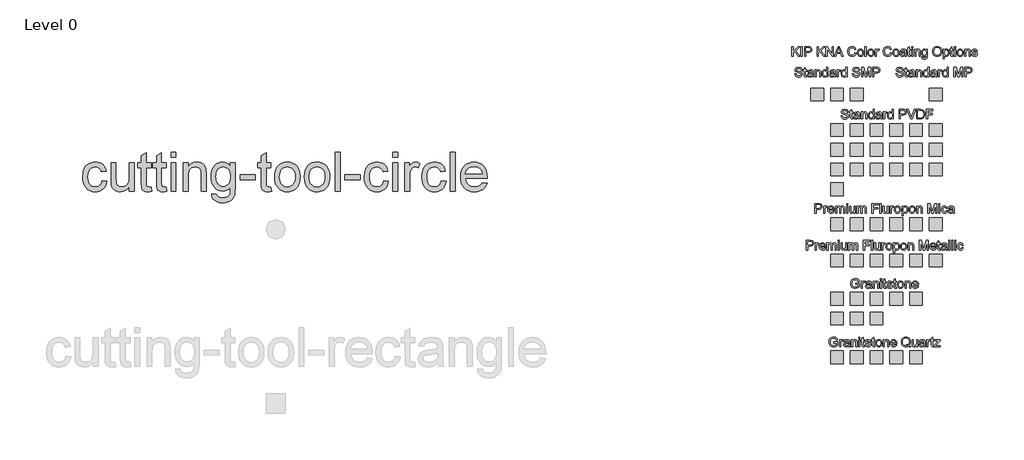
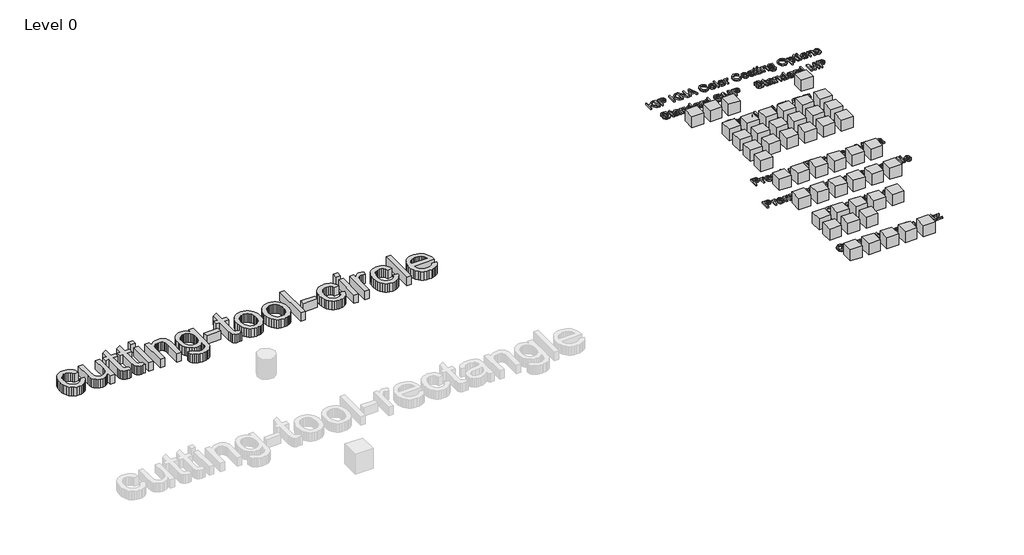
# One storey, part 5 of 5: 50 proxies.
"""IFC4 building model written with IfcOpenShell, lengths in millimetres."""

from ifc_helpers import new_model, si_unit, origin, origin_with_axes, place, context, project, spatial, polyline, outline, extrude, transform, mapped, element, save
from components import ks_color_sample_ks_color_sample_0243efec, r19_kna_color_range_kingspan_quadcore_4278cd54, r19_kna_color_range_kingspan_quadcore_c5814d20, r19_kna_color_range_kingspan_quadcore_91b79b7c

model = new_model("IFC4")

# Units and contexts
model_context = context("Model", 3, world=origin())
ifc_project = project(units=[si_unit("LENGTHUNIT", "METRE", prefix="MILLI")], contexts=[model_context])

# Site, building, storey
site = spatial("IfcSite", under=ifc_project)
building = spatial("IfcBuilding", under=site)
storey = spatial("IfcBuildingStorey", under=building, Name="Level 0", Elevation=0.0)

# Proxies
placement = place(None, origin())
element("IfcBuildingElementProxy", 1, Name="24\" Arial", ObjectType="24\" Arial", at=placement, inside=storey, context=model_context, shape_type="SweptSolid", body=[
    extrude(outline(polyline([(925.5357478, 12281.6242291), (1001.6775213, 12272.1065074), (993.3959881, 12236.1780375), (980.4485405, 12204.3856869), (962.8351786, 12176.7294556), (940.5559023, 12153.2093435), (914.5494714, 12134.4387977), (885.7546454, 12121.0312649), (854.1714244, 12112.9867453), (819.7998084, 12110.3052387), (777.0955386, 12114.0463354), (738.8062275, 12125.2696254), (704.9318753, 12143.9751087), (675.4724818, 12170.1627853), (651.627057, 12203.3400388), (634.5946108, 12243.0142527), (624.375143, 12289.185427), (620.9686537, 12341.8535617), (626.7871047, 12409.6115608), (634.0601684, 12440.1026604), (644.2424575, 12468.3351601), (657.4036821, 12493.7420861), (673.6135518, 12515.7564648), (692.8720668, 12534.3782963), (715.179227, 12549.6075804), (739.5265629, 12561.4489647), (764.905605, 12569.9070962), (791.3163532, 12574.9819752), (818.7588076, 12576.6736015), (852.5402133, 12574.349939), (883.0963755, 12567.3789514), (910.4272941, 12555.7606388), (934.5329691, 12539.4950012), (955.0044359, 12518.9538245), (971.4327299, 12494.5088947), (983.8178512, 12466.160212), (992.1597996, 12433.9077762), (916.0180261, 12424.3900545), (902.2061761, 12457.6091339), (880.6983558, 12481.4220274), (852.6842804, 12495.7543778), (819.3536652, 12500.531828), (793.4820067, 12498.1802815), (770.1477876, 12491.1256421), (749.3510081, 12479.3679097), (731.091668, 12462.9070844), (716.2248751, 12441.3620855), (705.6057374, 12414.3518324), (699.2342548, 12381.876325), (697.1104272, 12343.9355633), (699.1877815, 12305.4231807), (705.4198444, 12272.5712399), (715.8066159, 12245.3797411), (730.348096, 12223.8486842), (748.2449447, 12207.4854527), (768.6978222, 12195.7974302), (791.7067285, 12188.7846167), (817.2716636, 12186.4470122), (856.6995692, 12192.2840525), (873.7506048, 12199.5803528), (889.0263622, 12209.7951732), (902.0992876, 12223.0400496), (912.541827, 12239.4265177), (920.3539804, 12258.9545776), (925.5357478, 12281.6242291)])), origin_with_axes(), (0.0, 0.0, 1.0), 152.4),
    extrude(outline(polyline([(1353.8332238, 12119.8229604), (1353.8332238, 12196.7083059), (1326.283881, 12158.906964), (1294.1987489, 12131.9060055), (1257.5778275, 12115.7054304), (1216.4211169, 12110.3052387), (1179.3354631, 12114.0974559), (1144.8151327, 12125.4741077), (1115.853003, 12142.5762638), (1095.4419514, 12163.5449944), (1081.7044586, 12189.0123357), (1072.7630052, 12219.6103237), (1068.3015731, 12290.3983788), (1068.3015731, 12567.1558798), (1144.4433467, 12567.1558798), (1144.4433467, 12326.2385495), (1145.5958833, 12278.0550835), (1149.0534931, 12248.609632), (1160.1513053, 12222.7147369), (1179.1681594, 12203.028668), (1204.8399829, 12190.5924262), (1235.9027035, 12186.4470122), (1268.7499969, 12190.6853727), (1299.4781101, 12203.400454), (1324.8153263, 12223.4211303), (1341.4899285, 12249.5762756), (1350.7474, 12285.3978571), (1353.8332238, 12334.4178416), (1353.8332238, 12567.1558798), (1429.9749973, 12567.1558798), (1429.9749973, 12119.8229604), (1353.8332238, 12119.8229604)])), origin_with_axes(), (0.0, 0.0, 1.0), 152.4),
    extrude(outline(polyline([(1696.4712047, 12183.3240098), (1705.9889263, 12117.5922444), (1675.8370815, 12112.1269901), (1649.0313106, 12110.3052387), (1612.4847465, 12113.4654197), (1585.2328324, 12122.9459628), (1565.9743174, 12137.5571528), (1553.4079505, 12156.1092743), (1546.4927308, 12187.9713348), (1544.1876576, 12242.5123416), (1544.1876576, 12491.0141063), (1487.0813275, 12491.0141063), (1487.0813275, 12567.1558798), (1544.1876576, 12567.1558798), (1544.1876576, 12675.8661072), (1620.3294311, 12720.6291421), (1620.3294311, 12567.1558798), (1696.4712047, 12567.1558798), (1696.4712047, 12491.0141063), (1620.3294311, 12491.0141063), (1620.3294311, 12244.7430576), (1624.34472, 12205.4824556), (1637.3572301, 12191.5776591), (1648.3435065, 12187.7296739), (1663.3078931, 12186.4470122), (1696.4712047, 12183.3240098)])), origin_with_axes(), (0.0, 0.0, 1.0), 152.4),
    extrude(outline(polyline([(1934.4142469, 12183.3240098), (1943.9319686, 12117.5922444), (1913.7801237, 12112.1269901), (1886.9743528, 12110.3052387), (1850.4277887, 12113.4654197), (1823.1758746, 12122.9459628), (1803.9173597, 12137.5571528), (1791.3509927, 12156.1092743), (1784.4357731, 12187.9713348), (1782.1306999, 12242.5123416), (1782.1306999, 12491.0141063), (1725.0243697, 12491.0141063), (1725.0243697, 12567.1558798), (1782.1306999, 12567.1558798), (1782.1306999, 12675.8661072), (1858.2724734, 12720.6291421), (1858.2724734, 12567.1558798), (1934.4142469, 12567.1558798), (1934.4142469, 12491.0141063), (1858.2724734, 12491.0141063), (1858.2724734, 12244.7430576), (1862.2877622, 12205.4824556), (1875.3002723, 12191.5776591), (1886.2865487, 12187.7296739), (1901.2509354, 12186.4470122), (1934.4142469, 12183.3240098)])), origin_with_axes(), (0.0, 0.0, 1.0), 152.4),
    extrude(outline(polyline([(2010.5560204, 12652.815375), (2010.5560204, 12728.9571485), (2086.6977939, 12728.9571485), (2086.6977939, 12652.815375), (2010.5560204, 12652.815375)])), origin_with_axes(), (0.0, 0.0, 1.0), 152.4),
    extrude(outline(polyline([(2010.5560204, 12119.8229604), (2010.5560204, 12567.1558798), (2086.6977939, 12567.1558798), (2086.6977939, 12119.8229604), (2010.5560204, 12119.8229604)])), origin_with_axes(), (0.0, 0.0, 1.0), 152.4),
    extrude(outline(polyline([(2200.9104542, 12119.8229604), (2200.9104542, 12567.1558798), (2277.0522277, 12567.1558798), (2277.0522277, 12504.6958312), (2303.5048019, 12536.1861057), (2335.2739159, 12558.6791589), (2372.3595697, 12572.1749909), (2414.7617634, 12576.6736015), (2452.2935605, 12573.048688), (2486.6651765, 12562.1739474), (2515.3298774, 12545.4063986), (2535.740929, 12524.1030606), (2549.5899576, 12498.3197013), (2558.5685896, 12468.1120885), (2562.5838784, 12394.4984598), (2562.5838784, 12119.8229604), (2486.4421049, 12119.8229604), (2486.4421049, 12384.2371661), (2484.2485675, 12423.6093039), (2477.6679552, 12451.6047899), (2465.5291422, 12471.6626448), (2446.6610025, 12487.2218891), (2422.476323, 12497.2043433), (2394.3878904, 12500.531828), (2371.2674483, 12498.6636033), (2349.7921593, 12493.0589293), (2329.9620233, 12483.717806), (2311.7770404, 12470.6402333), (2296.5849349, 12452.3390673), (2285.7334309, 12427.3271639), (2279.2225285, 12395.6045231), (2277.0522277, 12357.171145), (2277.0522277, 12119.8229604), (2200.9104542, 12119.8229604)])), origin_with_axes(), (0.0, 0.0, 1.0), 152.4),
    extrude(outline(polyline([(2648.2433736, 12081.7520736), (2724.3851471, 12072.234352), (2732.7875108, 12048.4400477), (2749.0717378, 12032.0814636), (2781.0825127, 12019.3663823), (2822.9827953, 12015.1280218), (2867.6714729, 12019.9240613), (2885.7216834, 12025.9191106), (2900.9091416, 12034.3121796), (2923.9598738, 12057.3629118), (2938.0877419, 12088.1467929), (2942.2145666, 12120.9011398), (2943.292746, 12176.9292905), (2917.9555299, 12151.9452711), (2889.6812043, 12134.0995429), (2858.4697693, 12123.392106), (2824.3212249, 12119.8229604), (2782.574304, 12123.977669), (2745.8186102, 12136.4417948), (2714.0541436, 12157.2153377), (2687.280904, 12186.2982978), (2666.0379812, 12221.1904143), (2650.8644649, 12259.3914261), (2641.7603552, 12300.9013334), (2638.7256519, 12345.7201361), (2644.1723169, 12407.1949518), (2660.5123117, 12463.7250136), (2672.6232408, 12489.2155915), (2687.1693682, 12511.6296402), (2704.1506939, 12530.9671597), (2723.5672179, 12547.22815), (2745.1075695, 12560.110535), (2768.4603778, 12569.3122386), (2793.625643, 12574.8332608), (2820.6033648, 12576.6736015), (2856.2111693, 12572.5095983), (2888.5286677, 12560.0175885), (2917.5558599, 12539.1975723), (2943.292746, 12510.0495497), (2943.292746, 12567.1558798), (3019.4345195, 12567.1558798), (3019.4345195, 12180.9445794), (3014.2295155, 12091.7717064), (3007.7232604, 12058.6037476), (2998.6145033, 12033.0481072), (2986.6848199, 12012.4372206), (2971.715786, 11994.1035233), (2953.7074014, 11978.0470153), (2932.6596663, 11964.2676965), (2908.7863575, 11953.2070629), (2882.3012521, 11945.3066104), (2853.20435, 11940.5663388), (2821.4956512, 11938.9862483), (2784.1915731, 11941.212317), (2750.6518283, 11947.8905231), (2720.8764167, 11959.0208666), (2694.8653385, 11974.6033474), (2673.8547819, 11994.656555), (2659.0809356, 12019.1990786), (2650.5437995, 12048.2309181), (2648.2433736, 12081.7520736)]), holes=[polyline([(2714.8674254, 12350.9251402), (2716.8983065, 12313.27716), (2722.9909496, 12281.0851394), (2733.1453548, 12254.3490784), (2747.3615221, 12233.0689771), (2764.644924, 12216.8358707), (2784.0010328, 12205.2407947), (2805.4298486, 12198.2837491), (2828.9313713, 12195.9647339), (2852.2005278, 12198.2698071), (2873.5271024, 12205.1850268), (2892.9110952, 12216.7103929), (2910.3525061, 12232.8459055), (2924.763861, 12253.9168772), (2935.057686, 12280.2486209), (2941.233981, 12311.8411366), (2943.292746, 12348.6944242), (2941.1735658, 12384.0094472), (2934.8160251, 12414.7050291), (2924.220124, 12440.7811699), (2909.3858625, 12462.2378696), (2891.5680183, 12478.9914764), (2872.0213691, 12490.9583384), (2850.7459151, 12498.1384556), (2827.7416561, 12500.531828), (2805.1231251, 12498.1756342), (2784.261283, 12491.1070528), (2765.1561297, 12479.3260838), (2747.8076654, 12462.8327272), (2733.3963104, 12441.7013403), (2723.1024854, 12416.0062801), (2716.9261904, 12385.7475467), (2714.8674254, 12350.9251402)])]), origin_with_axes(), (0.0, 0.0, 1.0), 152.4),
    extrude(outline(polyline([(3095.576293, 12300.6596725), (3095.576293, 12376.801446), (3333.5193353, 12376.801446), (3333.5193353, 12300.6596725), (3095.576293, 12300.6596725)])), origin_with_axes(), (0.0, 0.0, 1.0), 152.4),
    extrude(outline(polyline([(3580.9800992, 12183.3240098), (3590.4978209, 12117.5922444), (3560.345976, 12112.1269901), (3533.5402052, 12110.3052387), (3496.993641, 12113.4654197), (3469.741727, 12122.9459628), (3450.483212, 12137.5571528), (3437.9168451, 12156.1092743), (3431.0016254, 12187.9713348), (3428.6965522, 12242.5123416), (3428.6965522, 12491.0141063), (3371.590222, 12491.0141063), (3371.590222, 12567.1558798), (3428.6965522, 12567.1558798), (3428.6965522, 12675.8661072), (3504.8383257, 12720.6291421), (3504.8383257, 12567.1558798), (3580.9800992, 12567.1558798), (3580.9800992, 12491.0141063), (3504.8383257, 12491.0141063), (3504.8383257, 12244.7430576), (3508.8536145, 12205.4824556), (3521.8661246, 12191.5776591), (3532.852401, 12187.7296739), (3547.8167877, 12186.4470122), (3580.9800992, 12183.3240098)])), origin_with_axes(), (0.0, 0.0, 1.0), 152.4),
    extrude(outline(polyline([(3638.0864293, 12343.4894201), (3642.2039593, 12401.4229741), (3654.5565493, 12451.3445397), (3675.1441992, 12493.254117), (3703.9669092, 12527.1517058), (3732.9848067, 12548.8175352), (3765.0141709, 12564.2931276), (3800.0550018, 12573.578483), (3838.1072992, 12576.6736015), (3880.1144703, 12572.9046209), (3918.0970579, 12561.5976791), (3952.055062, 12542.752776), (3981.9884826, 12516.3699117), (4006.4194703, 12483.3413726), (4023.8701759, 12444.5594452), (4034.3405992, 12400.0241293), (4037.8307403, 12349.735425), (4036.2878284, 12308.9783843), (4031.6590926, 12272.8129008), (4023.9445331, 12241.2389745), (4013.1441497, 12214.2566053), (3999.3927149, 12190.9502702), (3982.8250011, 12170.4044462), (3963.4410083, 12152.6191332), (3941.2407366, 12137.5943314), (3917.0885883, 12125.6553533), (3891.848966, 12117.1275119), (3865.5218697, 12112.010807), (3838.1072992, 12110.3052387), (3795.4866812, 12114.0602773), (3757.150897, 12125.3253933), (3723.0999464, 12144.1005864), (3693.3338295, 12170.3858569), (3669.1630919, 12203.7350614), (3651.8982794, 12243.7020568), (3641.5393918, 12290.286843), (3638.0864293, 12343.4894201)]), holes=[polyline([(3714.2282029, 12343.6381345), (3716.4310349, 12306.7058424), (3723.0395311, 12274.7275988), (3734.0536915, 12247.7034036), (3749.473516, 12225.633257), (3768.2301199, 12208.4892749), (3789.2546184, 12196.2435734), (3812.5470115, 12188.8961525), (3838.1072992, 12186.4470122), (3863.5374619, 12188.9100945), (3886.7369085, 12196.2993413), (3907.7056391, 12208.6147527), (3926.4436537, 12225.8563286), (3941.8634781, 12248.1448995), (3952.8776385, 12275.6012959), (3959.4861347, 12308.2255177), (3961.6889668, 12346.0175649), (3959.4721927, 12381.7787311), (3952.8218706, 12412.9204563), (3941.7380004, 12439.4427403), (3926.2205821, 12461.3455832), (3907.4128576, 12478.4895653), (3886.458069, 12490.7352668), (3863.3562162, 12498.0826877), (3838.1072992, 12500.531828), (3812.5470115, 12498.0919823), (3789.2546184, 12490.7724454), (3768.2301199, 12478.5732172), (3749.473516, 12461.4942976), (3734.0536915, 12439.4892135), (3723.0395311, 12412.5114917), (3716.4310349, 12380.561132), (3714.2282029, 12343.6381345)])]), origin_with_axes(), (0.0, 0.0, 1.0), 152.4),
    extrude(outline(polyline([(4104.4547921, 12343.4894201), (4108.5723221, 12401.4229741), (4120.9249121, 12451.3445397), (4141.512562, 12493.254117), (4170.3352719, 12527.1517058), (4199.3531695, 12548.8175352), (4231.3825337, 12564.2931276), (4266.4233646, 12573.578483), (4304.475662, 12576.6736015), (4346.4828331, 12572.9046209), (4384.4654207, 12561.5976791), (4418.4234248, 12542.752776), (4448.3568454, 12516.3699117), (4472.7878331, 12483.3413726), (4490.2385387, 12444.5594452), (4500.708962, 12400.0241293), (4504.1991031, 12349.735425), (4502.6561912, 12308.9783843), (4498.0274554, 12272.8129008), (4490.3128959, 12241.2389745), (4479.5125125, 12214.2566053), (4465.7610777, 12190.9502702), (4449.1933639, 12170.4044462), (4429.8093711, 12152.6191332), (4407.6090994, 12137.5943314), (4383.4569511, 12125.6553533), (4358.2173288, 12117.1275119), (4331.8902324, 12112.010807), (4304.475662, 12110.3052387), (4261.855044, 12114.0602773), (4223.5192598, 12125.3253933), (4189.4683092, 12144.1005864), (4159.7021922, 12170.3858569), (4135.5314547, 12203.7350614), (4118.2666422, 12243.7020568), (4107.9077546, 12290.286843), (4104.4547921, 12343.4894201)]), holes=[polyline([(4180.5965656, 12343.6381345), (4182.7993977, 12306.7058424), (4189.4078939, 12274.7275988), (4200.4220543, 12247.7034036), (4215.8418788, 12225.633257), (4234.5984827, 12208.4892749), (4255.6229812, 12196.2435734), (4278.9153743, 12188.8961525), (4304.475662, 12186.4470122), (4329.9058247, 12188.9100945), (4353.1052713, 12196.2993413), (4374.0740019, 12208.6147527), (4392.8120164, 12225.8563286), (4408.2318409, 12248.1448995), (4419.2460013, 12275.6012959), (4425.8544975, 12308.2255177), (4428.0573296, 12346.0175649), (4425.8405555, 12381.7787311), (4419.1902334, 12412.9204563), (4408.1063632, 12439.4427403), (4392.5889448, 12461.3455832), (4373.7812204, 12478.4895653), (4352.8264318, 12490.7352668), (4329.724579, 12498.0826877), (4304.475662, 12500.531828), (4278.9153743, 12498.0919823), (4255.6229812, 12490.7724454), (4234.5984827, 12478.5732172), (4215.8418788, 12461.4942976), (4200.4220543, 12439.4892135), (4189.4078939, 12412.5114917), (4182.7993977, 12380.561132), (4180.5965656, 12343.6381345)])]), origin_with_axes(), (0.0, 0.0, 1.0), 152.4),
    extrude(outline(polyline([(4589.8585983, 12119.8229604), (4589.8585983, 12728.9571485), (4666.0003718, 12728.9571485), (4666.0003718, 12119.8229604), (4589.8585983, 12119.8229604)])), origin_with_axes(), (0.0, 0.0, 1.0), 152.4),
    extrude(outline(polyline([(4742.1421453, 12300.6596725), (4742.1421453, 12376.801446), (4980.0851876, 12376.801446), (4980.0851876, 12300.6596725), (4742.1421453, 12300.6596725)])), origin_with_axes(), (0.0, 0.0, 1.0), 152.4),
    extrude(outline(polyline([(5351.2763335, 12281.6242291), (5427.418107, 12272.1065074), (5419.1365738, 12236.1780375), (5406.1891262, 12204.3856869), (5388.5757643, 12176.7294556), (5366.296488, 12153.2093435), (5340.2900571, 12134.4387977), (5311.4952311, 12121.0312649), (5279.9120101, 12112.9867453), (5245.5403941, 12110.3052387), (5202.8361242, 12114.0463354), (5164.5468132, 12125.2696254), (5130.672461, 12143.9751087), (5101.2130675, 12170.1627853), (5077.3676427, 12203.3400388), (5060.3351964, 12243.0142527), (5050.1157287, 12289.185427), (5046.7092394, 12341.8535617), (5052.5276904, 12409.6115608), (5059.8007541, 12440.1026604), (5069.9830432, 12468.3351601), (5083.1442677, 12493.7420861), (5099.3541375, 12515.7564648), (5118.6126525, 12534.3782963), (5140.9198127, 12549.6075804), (5165.2671486, 12561.4489647), (5190.6461907, 12569.9070962), (5217.0569389, 12574.9819752), (5244.4993933, 12576.6736015), (5278.280799, 12574.349939), (5308.8369612, 12567.3789514), (5336.1678798, 12555.7606388), (5360.2735548, 12539.4950012), (5380.7450216, 12518.9538245), (5397.1733156, 12494.5088947), (5409.5584368, 12466.160212), (5417.9003853, 12433.9077762), (5341.7586118, 12424.3900545), (5327.9467618, 12457.6091339), (5306.4389414, 12481.4220274), (5278.4248661, 12495.7543778), (5245.0942509, 12500.531828), (5219.2225924, 12498.1802815), (5195.8883733, 12491.1256421), (5175.0915937, 12479.3679097), (5156.8322536, 12462.9070844), (5141.9654608, 12441.3620855), (5131.3463231, 12414.3518324), (5124.9748405, 12381.876325), (5122.8510129, 12343.9355633), (5124.9283672, 12305.4231807), (5131.1604301, 12272.5712399), (5141.5472016, 12245.3797411), (5156.0886816, 12223.8486842), (5173.9855304, 12207.4854527), (5194.4384079, 12195.7974302), (5217.4473142, 12188.7846167), (5243.0122493, 12186.4470122), (5282.4401549, 12192.2840525), (5299.4911905, 12199.5803528), (5314.7669479, 12209.7951732), (5327.8398733, 12223.0400496), (5338.2824126, 12239.4265177), (5346.094566, 12258.9545776), (5351.2763335, 12281.6242291)])), origin_with_axes(), (0.0, 0.0, 1.0), 152.4),
    extrude(outline(polyline([(5494.0421588, 12652.815375), (5494.0421588, 12728.9571485), (5570.1839323, 12728.9571485), (5570.1839323, 12652.815375), (5494.0421588, 12652.815375)])), origin_with_axes(), (0.0, 0.0, 1.0), 152.4),
    extrude(outline(polyline([(5494.0421588, 12119.8229604), (5494.0421588, 12567.1558798), (5570.1839323, 12567.1558798), (5570.1839323, 12119.8229604), (5494.0421588, 12119.8229604)])), origin_with_axes(), (0.0, 0.0, 1.0), 152.4),
    extrude(outline(polyline([(5684.3965926, 12119.8229604), (5684.3965926, 12567.1558798), (5751.0206444, 12567.1558798), (5751.0206444, 12500.9779712), (5775.6328779, 12539.3462868), (5798.3118241, 12561.9508758), (5821.0651275, 12572.9929201), (5845.9004325, 12576.6736015), (5883.8226049, 12570.7993826), (5922.3396348, 12553.1767261), (5896.9094722, 12484.9168158), (5870.14088, 12496.6280749), (5843.3722877, 12500.531828), (5820.6375736, 12496.7767894), (5800.3194685, 12485.5116734), (5783.9051164, 12467.5915881), (5772.8816614, 12443.8716411), (5763.62419, 12401.3393223), (5760.5383661, 12354.940429), (5760.5383661, 12119.8229604), (5684.3965926, 12119.8229604)])), origin_with_axes(), (0.0, 0.0, 1.0), 152.4),
    extrude(outline(polyline([(6255.459894, 12281.6242291), (6331.6016675, 12272.1065074), (6323.3201343, 12236.1780375), (6310.3726867, 12204.3856869), (6292.7593248, 12176.7294556), (6270.4800485, 12153.2093435), (6244.4736176, 12134.4387977), (6215.6787916, 12121.0312649), (6184.0955706, 12112.9867453), (6149.7239546, 12110.3052387), (6107.0196848, 12114.0463354), (6068.7303737, 12125.2696254), (6034.8560215, 12143.9751087), (6005.396628, 12170.1627853), (5981.5512032, 12203.3400388), (5964.5187569, 12243.0142527), (5954.2992892, 12289.185427), (5950.8927999, 12341.8535617), (5956.7112509, 12409.6115608), (5963.9843146, 12440.1026604), (5974.1666037, 12468.3351601), (5987.3278283, 12493.7420861), (6003.537698, 12515.7564648), (6022.796213, 12534.3782963), (6045.1033732, 12549.6075804), (6069.4507091, 12561.4489647), (6094.8297512, 12569.9070962), (6121.2404994, 12574.9819752), (6148.6829538, 12576.6736015), (6182.4643595, 12574.349939), (6213.0205217, 12567.3789514), (6240.3514403, 12555.7606388), (6264.4571153, 12539.4950012), (6284.9285821, 12518.9538245), (6301.3568761, 12494.5088947), (6313.7419974, 12466.160212), (6322.0839458, 12433.9077762), (6245.9421723, 12424.3900545), (6232.1303223, 12457.6091339), (6210.622502, 12481.4220274), (6182.6084266, 12495.7543778), (6149.2778114, 12500.531828), (6123.4061529, 12498.1802815), (6100.0719338, 12491.1256421), (6079.2751543, 12479.3679097), (6061.0158142, 12462.9070844), (6046.1490213, 12441.3620855), (6035.5298836, 12414.3518324), (6029.158401, 12381.876325), (6027.0345734, 12343.9355633), (6029.1119277, 12305.4231807), (6035.3439906, 12272.5712399), (6045.7307621, 12245.3797411), (6060.2722421, 12223.8486842), (6078.1690909, 12207.4854527), (6098.6219684, 12195.7974302), (6121.6308747, 12188.7846167), (6147.1958098, 12186.4470122), (6186.6237154, 12192.2840525), (6203.674751, 12199.5803528), (6218.9505084, 12209.7951732), (6232.0234338, 12223.0400496), (6242.4659732, 12239.4265177), (6250.2781266, 12258.9545776), (6255.459894, 12281.6242291)])), origin_with_axes(), (0.0, 0.0, 1.0), 152.4),
    extrude(outline(polyline([(6398.2257193, 12119.8229604), (6398.2257193, 12728.9571485), (6474.3674928, 12728.9571485), (6474.3674928, 12119.8229604), (6398.2257193, 12119.8229604)])), origin_with_axes(), (0.0, 0.0, 1.0), 152.4),
    extrude(outline(polyline([(6901.7726825, 12253.0710641), (6976.427312, 12243.5533424), (6964.9809504, 12213.652453), (6949.5285946, 12187.30212), (6930.0702447, 12164.5023434), (6906.6059005, 12145.253123), (6879.3772231, 12129.9634236), (6848.6258733, 12119.0422098), (6814.3518511, 12112.4894815), (6776.5551565, 12110.3052387), (6729.3104501, 12114.0742193), (6687.2149799, 12125.3811612), (6650.2687458, 12144.2260642), (6618.4717478, 12170.6089285), (6592.9021654, 12203.7954766), (6574.638178, 12243.0514313), (6563.6797855, 12288.3767924), (6560.0269881, 12339.7715601), (6563.7169641, 12392.9090746), (6574.7868924, 12439.7448164), (6593.2367728, 12480.2787854), (6619.0666054, 12514.5109817), (6650.7799515, 12541.7071279), (6686.8803724, 12561.1329466), (6727.3678682, 12572.7884378), (6772.2424389, 12576.6736015), (6815.6716914, 12572.7977324), (6854.9462353, 12561.1701252), (6890.0660707, 12541.7907797), (6921.0311975, 12514.6596961), (6946.3079984, 12480.501857), (6964.3628562, 12440.0422452), (6975.1957708, 12393.2808606), (6978.8067424, 12340.2177033), (6978.3605992, 12319.6951159), (6636.1687616, 12319.6951159), (6640.579073, 12289.3109047), (6649.3485754, 12262.7003215), (6662.4772686, 12239.8633663), (6679.9651528, 12220.800039), (6700.8455842, 12205.7705898), (6724.1519193, 12195.0352689), (6749.8841581, 12188.5940764), (6778.0423005, 12186.4470122), (6818.5669749, 12190.4251225), (6852.69693, 12202.3594532), (6880.4321659, 12222.9935764), (6901.7726825, 12253.0710641)]), holes=[polyline([(6636.1687616, 12395.8368894), (6902.6649689, 12395.8368894), (6892.3664966, 12436.064135), (6883.5086951, 12451.8836294), (6872.1785166, 12464.8403716), (6851.4142683, 12480.4553838), (6827.7872678, 12491.6089639), (6801.297515, 12498.301112), (6771.9450101, 12500.531828), (6745.1717705, 12498.7519025), (6720.6199523, 12493.412126), (6698.2895554, 12484.5124986), (6678.18058, 12472.0530201), (6661.3061427, 12456.609959), (6648.6793606, 12438.7595835), (6640.3002335, 12418.5018936), (6636.1687616, 12395.8368894)])]), origin_with_axes(), (0.0, 0.0, 1.0), 152.4),
])
ks_color_sample_ks_color_sample_shape = ks_color_sample_ks_color_sample_0243efec(model_context)
element("IfcBuildingElementProxy", 2, Name="KS_Color Sample : KS_Color Sample", ObjectType="KS_Color Sample : KS_Color Sample", at=placement, inside=storey, context=model_context, shape_type="MappedRepresentation", body=[
    mapped(ks_color_sample_ks_color_sample_shape, transform((12166.5853815, 13639.2290821, 0.0), x_axis=(1.0, 0.0, 0.0), y_axis=(0.0, 1.0, 0.0), z_axis=(0.0, 0.0, 1.0))),
])
element("IfcBuildingElementProxy", 3, Name="KS_Color Sample : KS_Color Sample", ObjectType="KS_Color Sample : KS_Color Sample", at=placement, inside=storey, context=model_context, shape_type="MappedRepresentation", body=[
    mapped(ks_color_sample_ks_color_sample_shape, transform((12476.5853815, 13639.2290821, 0.0), x_axis=(1.0, 0.0, 0.0), y_axis=(0.0, 1.0, 0.0), z_axis=(0.0, 0.0, 1.0))),
])
element("IfcBuildingElementProxy", 4, Name="KS_Color Sample : KS_Color Sample", ObjectType="KS_Color Sample : KS_Color Sample", at=placement, inside=storey, context=model_context, shape_type="MappedRepresentation", body=[
    mapped(ks_color_sample_ks_color_sample_shape, transform((12786.5853815, 13639.2290821, 0.0), x_axis=(1.0, 0.0, 0.0), y_axis=(0.0, 1.0, 0.0), z_axis=(0.0, 0.0, 1.0))),
])
element("IfcBuildingElementProxy", 5, Name="KS_Color Sample : KS_Color Sample", ObjectType="KS_Color Sample : KS_Color Sample", at=placement, inside=storey, context=model_context, shape_type="MappedRepresentation", body=[
    mapped(ks_color_sample_ks_color_sample_shape, transform((14026.5853815, 13639.2290821, 0.0), x_axis=(1.0, 0.0, 0.0), y_axis=(0.0, 1.0, 0.0), z_axis=(0.0, 0.0, 1.0))),
])
element("IfcBuildingElementProxy", 6, Name="KS_Color Sample : KS_Color Sample", ObjectType="KS_Color Sample : KS_Color Sample", at=placement, inside=storey, context=model_context, shape_type="MappedRepresentation", body=[
    mapped(ks_color_sample_ks_color_sample_shape, transform((12786.5853815, 13079.2290821, 0.0), x_axis=(1.0, 0.0, 0.0), y_axis=(0.0, 1.0, 0.0), z_axis=(0.0, 0.0, 1.0))),
])
element("IfcBuildingElementProxy", 7, Name="KS_Color Sample : KS_Color Sample", ObjectType="KS_Color Sample : KS_Color Sample", at=placement, inside=storey, context=model_context, shape_type="MappedRepresentation", body=[
    mapped(ks_color_sample_ks_color_sample_shape, transform((13096.5853815, 13079.2290821, 0.0), x_axis=(1.0, 0.0, 0.0), y_axis=(0.0, 1.0, 0.0), z_axis=(0.0, 0.0, 1.0))),
])
element("IfcBuildingElementProxy", 8, Name="KS_Color Sample : KS_Color Sample", ObjectType="KS_Color Sample : KS_Color Sample", at=placement, inside=storey, context=model_context, shape_type="MappedRepresentation", body=[
    mapped(ks_color_sample_ks_color_sample_shape, transform((13406.5853815, 13079.2290821, 0.0), x_axis=(1.0, 0.0, 0.0), y_axis=(0.0, 1.0, 0.0), z_axis=(0.0, 0.0, 1.0))),
])
element("IfcBuildingElementProxy", 9, Name="KS_Color Sample : KS_Color Sample", ObjectType="KS_Color Sample : KS_Color Sample", at=placement, inside=storey, context=model_context, shape_type="MappedRepresentation", body=[
    mapped(ks_color_sample_ks_color_sample_shape, transform((13716.5853815, 13079.2290821, 0.0), x_axis=(1.0, 0.0, 0.0), y_axis=(0.0, 1.0, 0.0), z_axis=(0.0, 0.0, 1.0))),
])
element("IfcBuildingElementProxy", 10, Name="KS_Color Sample : KS_Color Sample", ObjectType="KS_Color Sample : KS_Color Sample", at=placement, inside=storey, context=model_context, shape_type="MappedRepresentation", body=[
    mapped(ks_color_sample_ks_color_sample_shape, transform((12476.5853815, 11599.2290821, 0.0), x_axis=(1.0, 0.0, 0.0), y_axis=(0.0, 1.0, 0.0), z_axis=(0.0, 0.0, 1.0))),
])
element("IfcBuildingElementProxy", 11, Name="KS_Color Sample : KS_Color Sample", ObjectType="KS_Color Sample : KS_Color Sample", at=placement, inside=storey, context=model_context, shape_type="MappedRepresentation", body=[
    mapped(ks_color_sample_ks_color_sample_shape, transform((12786.5853815, 11599.2290821, 0.0), x_axis=(1.0, 0.0, 0.0), y_axis=(0.0, 1.0, 0.0), z_axis=(0.0, 0.0, 1.0))),
])
element("IfcBuildingElementProxy", 12, Name="KS_Color Sample : KS_Color Sample", ObjectType="KS_Color Sample : KS_Color Sample", at=placement, inside=storey, context=model_context, shape_type="MappedRepresentation", body=[
    mapped(ks_color_sample_ks_color_sample_shape, transform((13096.5853815, 11599.2290821, 0.0), x_axis=(1.0, 0.0, 0.0), y_axis=(0.0, 1.0, 0.0), z_axis=(0.0, 0.0, 1.0))),
])
element("IfcBuildingElementProxy", 13, Name="KS_Color Sample : KS_Color Sample", ObjectType="KS_Color Sample : KS_Color Sample", at=placement, inside=storey, context=model_context, shape_type="MappedRepresentation", body=[
    mapped(ks_color_sample_ks_color_sample_shape, transform((13406.5853815, 11599.2290821, 0.0), x_axis=(1.0, 0.0, 0.0), y_axis=(0.0, 1.0, 0.0), z_axis=(0.0, 0.0, 1.0))),
])
element("IfcBuildingElementProxy", 14, Name="KS_Color Sample : KS_Color Sample", ObjectType="KS_Color Sample : KS_Color Sample", at=placement, inside=storey, context=model_context, shape_type="MappedRepresentation", body=[
    mapped(ks_color_sample_ks_color_sample_shape, transform((14026.5853815, 13079.2290821, 0.0), x_axis=(1.0, 0.0, 0.0), y_axis=(0.0, 1.0, 0.0), z_axis=(0.0, 0.0, 1.0))),
])
element("IfcBuildingElementProxy", 15, Name="KS_Color Sample : KS_Color Sample", ObjectType="KS_Color Sample : KS_Color Sample", at=placement, inside=storey, context=model_context, shape_type="MappedRepresentation", body=[
    mapped(ks_color_sample_ks_color_sample_shape, transform((13716.5853815, 12769.2290821, 0.0), x_axis=(1.0, 0.0, 0.0), y_axis=(0.0, 1.0, 0.0), z_axis=(0.0, 0.0, 1.0))),
])
element("IfcBuildingElementProxy", 16, Name="KS_Color Sample : KS_Color Sample", ObjectType="KS_Color Sample : KS_Color Sample", at=placement, inside=storey, context=model_context, shape_type="MappedRepresentation", body=[
    mapped(ks_color_sample_ks_color_sample_shape, transform((14026.5853815, 12769.2290821, 0.0), x_axis=(1.0, 0.0, 0.0), y_axis=(0.0, 1.0, 0.0), z_axis=(0.0, 0.0, 1.0))),
])
element("IfcBuildingElementProxy", 17, Name="KS_Color Sample : KS_Color Sample", ObjectType="KS_Color Sample : KS_Color Sample", at=placement, inside=storey, context=model_context, shape_type="MappedRepresentation", body=[
    mapped(ks_color_sample_ks_color_sample_shape, transform((12476.5853815, 12769.2290821, 0.0), x_axis=(1.0, 0.0, 0.0), y_axis=(0.0, 1.0, 0.0), z_axis=(0.0, 0.0, 1.0))),
])
element("IfcBuildingElementProxy", 18, Name="KS_Color Sample : KS_Color Sample", ObjectType="KS_Color Sample : KS_Color Sample", at=placement, inside=storey, context=model_context, shape_type="MappedRepresentation", body=[
    mapped(ks_color_sample_ks_color_sample_shape, transform((13096.5853815, 12769.2290821, 0.0), x_axis=(1.0, 0.0, 0.0), y_axis=(0.0, 1.0, 0.0), z_axis=(0.0, 0.0, 1.0))),
])
element("IfcBuildingElementProxy", 19, Name="KS_Color Sample : KS_Color Sample", ObjectType="KS_Color Sample : KS_Color Sample", at=placement, inside=storey, context=model_context, shape_type="MappedRepresentation", body=[
    mapped(ks_color_sample_ks_color_sample_shape, transform((13406.5853815, 12769.2290821, 0.0), x_axis=(1.0, 0.0, 0.0), y_axis=(0.0, 1.0, 0.0), z_axis=(0.0, 0.0, 1.0))),
])
element("IfcBuildingElementProxy", 20, Name="KS_Color Sample : KS_Color Sample", ObjectType="KS_Color Sample : KS_Color Sample", at=placement, inside=storey, context=model_context, shape_type="MappedRepresentation", body=[
    mapped(ks_color_sample_ks_color_sample_shape, transform((12476.5853815, 12459.2290821, 0.0), x_axis=(1.0, 0.0, 0.0), y_axis=(0.0, 1.0, 0.0), z_axis=(0.0, 0.0, 1.0))),
])
element("IfcBuildingElementProxy", 21, Name="KS_Color Sample : KS_Color Sample", ObjectType="KS_Color Sample : KS_Color Sample", at=placement, inside=storey, context=model_context, shape_type="MappedRepresentation", body=[
    mapped(ks_color_sample_ks_color_sample_shape, transform((12786.5853815, 12459.2290821, 0.0), x_axis=(1.0, 0.0, 0.0), y_axis=(0.0, 1.0, 0.0), z_axis=(0.0, 0.0, 1.0))),
])
element("IfcBuildingElementProxy", 22, Name="KS_Color Sample : KS_Color Sample", ObjectType="KS_Color Sample : KS_Color Sample", at=placement, inside=storey, context=model_context, shape_type="MappedRepresentation", body=[
    mapped(ks_color_sample_ks_color_sample_shape, transform((13096.5853815, 12459.2290821, 0.0), x_axis=(1.0, 0.0, 0.0), y_axis=(0.0, 1.0, 0.0), z_axis=(0.0, 0.0, 1.0))),
])
element("IfcBuildingElementProxy", 23, Name="KS_Color Sample : KS_Color Sample", ObjectType="KS_Color Sample : KS_Color Sample", at=placement, inside=storey, context=model_context, shape_type="MappedRepresentation", body=[
    mapped(ks_color_sample_ks_color_sample_shape, transform((13406.5853815, 12459.2290821, 0.0), x_axis=(1.0, 0.0, 0.0), y_axis=(0.0, 1.0, 0.0), z_axis=(0.0, 0.0, 1.0))),
])
element("IfcBuildingElementProxy", 24, Name="KS_Color Sample : KS_Color Sample", ObjectType="KS_Color Sample : KS_Color Sample", at=placement, inside=storey, context=model_context, shape_type="MappedRepresentation", body=[
    mapped(ks_color_sample_ks_color_sample_shape, transform((13716.5853815, 12459.2290821, 0.0), x_axis=(1.0, 0.0, 0.0), y_axis=(0.0, 1.0, 0.0), z_axis=(0.0, 0.0, 1.0))),
])
element("IfcBuildingElementProxy", 25, Name="KS_Color Sample : KS_Color Sample", ObjectType="KS_Color Sample : KS_Color Sample", at=placement, inside=storey, context=model_context, shape_type="MappedRepresentation", body=[
    mapped(ks_color_sample_ks_color_sample_shape, transform((14026.5853815, 12459.2290821, 0.0), x_axis=(1.0, 0.0, 0.0), y_axis=(0.0, 1.0, 0.0), z_axis=(0.0, 0.0, 1.0))),
])
element("IfcBuildingElementProxy", 26, Name="KS_Color Sample : KS_Color Sample", ObjectType="KS_Color Sample : KS_Color Sample", at=placement, inside=storey, context=model_context, shape_type="MappedRepresentation", body=[
    mapped(ks_color_sample_ks_color_sample_shape, transform((12476.5853815, 12149.2290821, 0.0), x_axis=(1.0, 0.0, 0.0), y_axis=(0.0, 1.0, 0.0), z_axis=(0.0, 0.0, 1.0))),
])
element("IfcBuildingElementProxy", 27, Name="KS_Color Sample : KS_Color Sample", ObjectType="KS_Color Sample : KS_Color Sample", at=placement, inside=storey, context=model_context, shape_type="MappedRepresentation", body=[
    mapped(ks_color_sample_ks_color_sample_shape, transform((13716.5853815, 11599.2290821, 0.0), x_axis=(1.0, 0.0, 0.0), y_axis=(0.0, 1.0, 0.0), z_axis=(0.0, 0.0, 1.0))),
])
element("IfcBuildingElementProxy", 28, Name="KS_Color Sample : KS_Color Sample", ObjectType="KS_Color Sample : KS_Color Sample", at=placement, inside=storey, context=model_context, shape_type="MappedRepresentation", body=[
    mapped(ks_color_sample_ks_color_sample_shape, transform((14026.5853815, 11599.2290821, 0.0), x_axis=(1.0, 0.0, 0.0), y_axis=(0.0, 1.0, 0.0), z_axis=(0.0, 0.0, 1.0))),
])
element("IfcBuildingElementProxy", 29, Name="KS_Color Sample : KS_Color Sample", ObjectType="KS_Color Sample : KS_Color Sample", at=placement, inside=storey, context=model_context, shape_type="MappedRepresentation", body=[
    mapped(ks_color_sample_ks_color_sample_shape, transform((12476.5853815, 11029.2290821, 0.0), x_axis=(1.0, 0.0, 0.0), y_axis=(0.0, 1.0, 0.0), z_axis=(0.0, 0.0, 1.0))),
])
element("IfcBuildingElementProxy", 30, Name="KS_Color Sample : KS_Color Sample", ObjectType="KS_Color Sample : KS_Color Sample", at=placement, inside=storey, context=model_context, shape_type="MappedRepresentation", body=[
    mapped(ks_color_sample_ks_color_sample_shape, transform((12786.5853815, 11029.2290821, 0.0), x_axis=(1.0, 0.0, 0.0), y_axis=(0.0, 1.0, 0.0), z_axis=(0.0, 0.0, 1.0))),
])
element("IfcBuildingElementProxy", 31, Name="KS_Color Sample : KS_Color Sample", ObjectType="KS_Color Sample : KS_Color Sample", at=placement, inside=storey, context=model_context, shape_type="MappedRepresentation", body=[
    mapped(ks_color_sample_ks_color_sample_shape, transform((13096.5853815, 11029.2290821, 0.0), x_axis=(1.0, 0.0, 0.0), y_axis=(0.0, 1.0, 0.0), z_axis=(0.0, 0.0, 1.0))),
])
element("IfcBuildingElementProxy", 32, Name="KS_Color Sample : KS_Color Sample", ObjectType="KS_Color Sample : KS_Color Sample", at=placement, inside=storey, context=model_context, shape_type="MappedRepresentation", body=[
    mapped(ks_color_sample_ks_color_sample_shape, transform((13406.5853815, 11029.2290821, 0.0), x_axis=(1.0, 0.0, 0.0), y_axis=(0.0, 1.0, 0.0), z_axis=(0.0, 0.0, 1.0))),
])
element("IfcBuildingElementProxy", 33, Name="KS_Color Sample : KS_Color Sample", ObjectType="KS_Color Sample : KS_Color Sample", at=placement, inside=storey, context=model_context, shape_type="MappedRepresentation", body=[
    mapped(ks_color_sample_ks_color_sample_shape, transform((13716.5853815, 11029.2290821, 0.0), x_axis=(1.0, 0.0, 0.0), y_axis=(0.0, 1.0, 0.0), z_axis=(0.0, 0.0, 1.0))),
])
element("IfcBuildingElementProxy", 34, Name="KS_Color Sample : KS_Color Sample", ObjectType="KS_Color Sample : KS_Color Sample", at=placement, inside=storey, context=model_context, shape_type="MappedRepresentation", body=[
    mapped(ks_color_sample_ks_color_sample_shape, transform((14026.5853815, 11029.2290821, 0.0), x_axis=(1.0, 0.0, 0.0), y_axis=(0.0, 1.0, 0.0), z_axis=(0.0, 0.0, 1.0))),
])
element("IfcBuildingElementProxy", 35, Name="KS_Color Sample : KS_Color Sample", ObjectType="KS_Color Sample : KS_Color Sample", at=placement, inside=storey, context=model_context, shape_type="MappedRepresentation", body=[
    mapped(ks_color_sample_ks_color_sample_shape, transform((12476.5853815, 10429.2290821, 0.0), x_axis=(1.0, 0.0, 0.0), y_axis=(0.0, 1.0, 0.0), z_axis=(0.0, 0.0, 1.0))),
])
element("IfcBuildingElementProxy", 36, Name="KS_Color Sample : KS_Color Sample", ObjectType="KS_Color Sample : KS_Color Sample", at=placement, inside=storey, context=model_context, shape_type="MappedRepresentation", body=[
    mapped(ks_color_sample_ks_color_sample_shape, transform((12786.5853815, 10429.2290821, 0.0), x_axis=(1.0, 0.0, 0.0), y_axis=(0.0, 1.0, 0.0), z_axis=(0.0, 0.0, 1.0))),
])
element("IfcBuildingElementProxy", 37, Name="KS_Color Sample : KS_Color Sample", ObjectType="KS_Color Sample : KS_Color Sample", at=placement, inside=storey, context=model_context, shape_type="MappedRepresentation", body=[
    mapped(ks_color_sample_ks_color_sample_shape, transform((13096.5853815, 10429.2290821, 0.0), x_axis=(1.0, 0.0, 0.0), y_axis=(0.0, 1.0, 0.0), z_axis=(0.0, 0.0, 1.0))),
])
element("IfcBuildingElementProxy", 38, Name="KS_Color Sample : KS_Color Sample", ObjectType="KS_Color Sample : KS_Color Sample", at=placement, inside=storey, context=model_context, shape_type="MappedRepresentation", body=[
    mapped(ks_color_sample_ks_color_sample_shape, transform((13406.5853815, 10429.2290821, 0.0), x_axis=(1.0, 0.0, 0.0), y_axis=(0.0, 1.0, 0.0), z_axis=(0.0, 0.0, 1.0))),
])
element("IfcBuildingElementProxy", 39, Name="KS_Color Sample : KS_Color Sample", ObjectType="KS_Color Sample : KS_Color Sample", at=placement, inside=storey, context=model_context, shape_type="MappedRepresentation", body=[
    mapped(ks_color_sample_ks_color_sample_shape, transform((13716.5853815, 10429.2290821, 0.0), x_axis=(1.0, 0.0, 0.0), y_axis=(0.0, 1.0, 0.0), z_axis=(0.0, 0.0, 1.0))),
])
element("IfcBuildingElementProxy", 40, Name="KS_Color Sample : KS_Color Sample", ObjectType="KS_Color Sample : KS_Color Sample", at=placement, inside=storey, context=model_context, shape_type="MappedRepresentation", body=[
    mapped(ks_color_sample_ks_color_sample_shape, transform((12476.5853815, 10119.2290821, 0.0), x_axis=(1.0, 0.0, 0.0), y_axis=(0.0, 1.0, 0.0), z_axis=(0.0, 0.0, 1.0))),
])
element("IfcBuildingElementProxy", 41, Name="KS_Color Sample : KS_Color Sample", ObjectType="KS_Color Sample : KS_Color Sample", at=placement, inside=storey, context=model_context, shape_type="MappedRepresentation", body=[
    mapped(ks_color_sample_ks_color_sample_shape, transform((12786.5853815, 10119.2290821, 0.0), x_axis=(1.0, 0.0, 0.0), y_axis=(0.0, 1.0, 0.0), z_axis=(0.0, 0.0, 1.0))),
])
element("IfcBuildingElementProxy", 42, Name="KS_Color Sample : KS_Color Sample", ObjectType="KS_Color Sample : KS_Color Sample", at=placement, inside=storey, context=model_context, shape_type="MappedRepresentation", body=[
    mapped(ks_color_sample_ks_color_sample_shape, transform((13096.5853815, 10119.2290821, 0.0), x_axis=(1.0, 0.0, 0.0), y_axis=(0.0, 1.0, 0.0), z_axis=(0.0, 0.0, 1.0))),
])
element("IfcBuildingElementProxy", 43, Name="KS_Color Sample : KS_Color Sample", ObjectType="KS_Color Sample : KS_Color Sample", at=placement, inside=storey, context=model_context, shape_type="MappedRepresentation", body=[
    mapped(ks_color_sample_ks_color_sample_shape, transform((12476.5853815, 9509.2290821, 0.0), x_axis=(1.0, 0.0, 0.0), y_axis=(0.0, 1.0, 0.0), z_axis=(0.0, 0.0, 1.0))),
])
element("IfcBuildingElementProxy", 44, Name="KS_Color Sample : KS_Color Sample", ObjectType="KS_Color Sample : KS_Color Sample", at=placement, inside=storey, context=model_context, shape_type="MappedRepresentation", body=[
    mapped(ks_color_sample_ks_color_sample_shape, transform((12786.5853815, 9509.2290821, 0.0), x_axis=(1.0, 0.0, 0.0), y_axis=(0.0, 1.0, 0.0), z_axis=(0.0, 0.0, 1.0))),
])
element("IfcBuildingElementProxy", 45, Name="KS_Color Sample : KS_Color Sample", ObjectType="KS_Color Sample : KS_Color Sample", at=placement, inside=storey, context=model_context, shape_type="MappedRepresentation", body=[
    mapped(ks_color_sample_ks_color_sample_shape, transform((13096.5853815, 9509.2290821, 0.0), x_axis=(1.0, 0.0, 0.0), y_axis=(0.0, 1.0, 0.0), z_axis=(0.0, 0.0, 1.0))),
])
element("IfcBuildingElementProxy", 46, Name="KS_Color Sample : KS_Color Sample", ObjectType="KS_Color Sample : KS_Color Sample", at=placement, inside=storey, context=model_context, shape_type="MappedRepresentation", body=[
    mapped(ks_color_sample_ks_color_sample_shape, transform((13406.5853815, 9509.2290821, 0.0), x_axis=(1.0, 0.0, 0.0), y_axis=(0.0, 1.0, 0.0), z_axis=(0.0, 0.0, 1.0))),
])
element("IfcBuildingElementProxy", 47, Name="KS_Color Sample : KS_Color Sample", ObjectType="KS_Color Sample : KS_Color Sample", at=placement, inside=storey, context=model_context, shape_type="MappedRepresentation", body=[
    mapped(ks_color_sample_ks_color_sample_shape, transform((13716.5853815, 9509.2290821, 0.0), x_axis=(1.0, 0.0, 0.0), y_axis=(0.0, 1.0, 0.0), z_axis=(0.0, 0.0, 1.0))),
])
element("IfcBuildingElementProxy", 48, Name="KS_Color Sample : KS_Color Sample", ObjectType="KS_Color Sample : KS_Color Sample", at=placement, inside=storey, context=model_context, shape_type="MappedRepresentation", body=[
    mapped(ks_color_sample_ks_color_sample_shape, transform((12476.5853815, 13079.2290821, 0.0), x_axis=(1.0, 0.0, 0.0), y_axis=(0.0, 1.0, 0.0), z_axis=(0.0, 0.0, 1.0))),
])
element("IfcBuildingElementProxy", 49, Name="KS_Color Sample : KS_Color Sample", ObjectType="KS_Color Sample : KS_Color Sample", at=placement, inside=storey, context=model_context, shape_type="MappedRepresentation", body=[
    mapped(ks_color_sample_ks_color_sample_shape, transform((12786.5853815, 12769.2290821, 0.0), x_axis=(1.0, 0.0, 0.0), y_axis=(0.0, 1.0, 0.0), z_axis=(0.0, 0.0, 1.0))),
])
r19_kna_color_range_kingspan_quadcore_shape = r19_kna_color_range_kingspan_quadcore_4278cd54(model_context)
r19_kna_color_range_kingspan_quadcore_2_shape = r19_kna_color_range_kingspan_quadcore_c5814d20(model_context)
r19_kna_color_range_kingspan_quadcore_3_shape = r19_kna_color_range_kingspan_quadcore_91b79b7c(model_context)
element("IfcBuildingElementProxy", 50, Name="R19_KNA_Color Range : Kingspan Quadcore", ObjectType="R19_KNA_Color Range : Kingspan Quadcore", at=placement, inside=storey, context=model_context, shape_type="MappedRepresentation", body=[
    mapped(r19_kna_color_range_kingspan_quadcore_shape, transform((13221.5853815, 13539.2290821, 0.0), x_axis=(1.0, 0.0, 0.0), y_axis=(0.0, 1.0, 0.0), z_axis=(0.0, 0.0, 1.0))),
    mapped(r19_kna_color_range_kingspan_quadcore_2_shape, transform((13221.5853815, 13539.2290821, 0.0), x_axis=(1.0, 0.0, 0.0), y_axis=(0.0, 1.0, 0.0), z_axis=(0.0, 0.0, 1.0))),
    mapped(r19_kna_color_range_kingspan_quadcore_3_shape, transform((13221.5853815, 13539.2290821, 0.0), x_axis=(1.0, 0.0, 0.0), y_axis=(0.0, 1.0, 0.0), z_axis=(0.0, 0.0, 1.0))),
])

save(model, "model.ifc")
